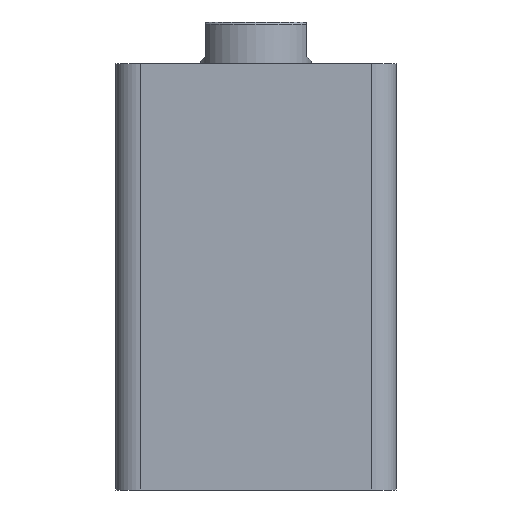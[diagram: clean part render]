
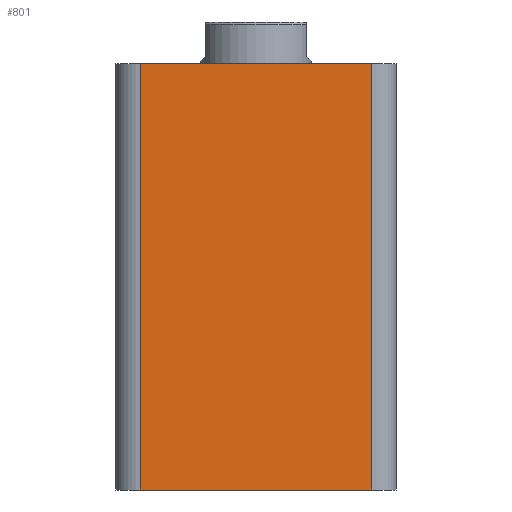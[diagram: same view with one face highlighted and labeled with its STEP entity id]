
A CAD part, front view. The second image highlights one B-rep face of the part: STEP entity #801.
In plain terms, the highlighted planar face has unit normal (0, -1, 0).
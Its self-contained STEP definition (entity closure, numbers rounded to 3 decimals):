
#211 = EDGE_LOOP ( 'NONE', ( #1069, #1072, #1195, #1202 ) ) ;
#801 = ADVANCED_FACE ( 'NONE', ( #1350 ), #1837, .F. ) ;
#1069 = ORIENTED_EDGE ( 'NONE', *, *, #1271, .T. ) ;
#1072 = ORIENTED_EDGE ( 'NONE', *, *, #1259, .T. ) ;
#1195 = ORIENTED_EDGE ( 'NONE', *, *, #1263, .F. ) ;
#1202 = ORIENTED_EDGE ( 'NONE', *, *, #1260, .T. ) ;
#1259 = EDGE_CURVE ( 'NONE', #2101, #2094, #1398, .T. ) ;
#1260 = EDGE_CURVE ( 'NONE', #2091, #2110, #1400, .T. ) ;
#1263 = EDGE_CURVE ( 'NONE', #2091, #2094, #1407, .T. ) ;
#1271 = EDGE_CURVE ( 'NONE', #2110, #2101, #1422, .T. ) ;
#1350 = FACE_OUTER_BOUND ( 'NONE', #211, .T. ) ;
#1398 = LINE ( 'NONE', #1917, #1402 ) ;
#1400 = LINE ( 'NONE', #1934, #1404 ) ;
#1402 = VECTOR ( 'NONE', #1926, 1000. ) ;
#1404 = VECTOR ( 'NONE', #1938, 1000. ) ;
#1407 = LINE ( 'NONE', #1943, #1410 ) ;
#1410 = VECTOR ( 'NONE', #1944, 1000. ) ;
#1422 = LINE ( 'NONE', #1960, #1425 ) ;
#1425 = VECTOR ( 'NONE', #1961, 1000. ) ;
#1568 = CARTESIAN_POINT ( 'NONE',  ( -47., -57., 173. ) ) ;
#1574 = CARTESIAN_POINT ( 'NONE',  ( 47., -57., 173. ) ) ;
#1580 = CARTESIAN_POINT ( 'NONE',  ( 47., -57., 0. ) ) ;
#1589 = CARTESIAN_POINT ( 'NONE',  ( -47., -57., 0. ) ) ;
#1837 = PLANE ( 'NONE',  #2513 ) ;
#1839 = CARTESIAN_POINT ( 'NONE',  ( -57., -57., 173. ) ) ;
#1840 = DIRECTION ( 'NONE',  ( 0., 1., 0. ) ) ;
#1841 = DIRECTION ( 'NONE',  ( 0., 0., 1. ) ) ;
#1917 = CARTESIAN_POINT ( 'NONE',  ( 47., -57., 173. ) ) ;
#1926 = DIRECTION ( 'NONE',  ( 0., 0., 1. ) ) ;
#1934 = CARTESIAN_POINT ( 'NONE',  ( -47., -57., 173. ) ) ;
#1938 = DIRECTION ( 'NONE',  ( 0., 0., -1. ) ) ;
#1943 = CARTESIAN_POINT ( 'NONE',  ( -57., -57., 173. ) ) ;
#1944 = DIRECTION ( 'NONE',  ( 1., 0., 0. ) ) ;
#1960 = CARTESIAN_POINT ( 'NONE',  ( -57., -57., 0. ) ) ;
#1961 = DIRECTION ( 'NONE',  ( 1., 0., 0. ) ) ;
#2091 = VERTEX_POINT ( 'NONE', #1568 ) ;
#2094 = VERTEX_POINT ( 'NONE', #1574 ) ;
#2101 = VERTEX_POINT ( 'NONE', #1580 ) ;
#2110 = VERTEX_POINT ( 'NONE', #1589 ) ;
#2513 = AXIS2_PLACEMENT_3D ( 'NONE', #1839, #1840, #1841 ) ;
